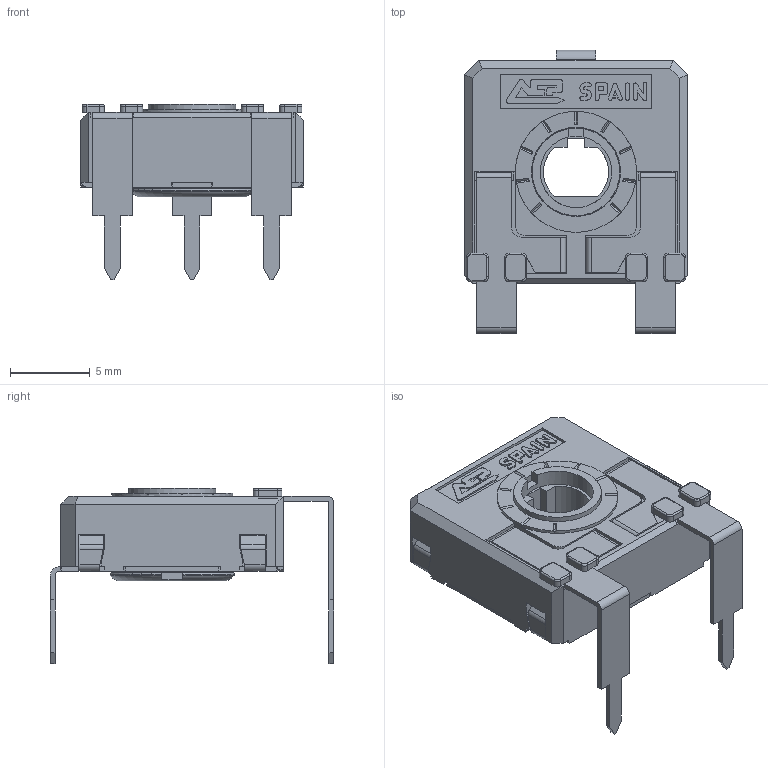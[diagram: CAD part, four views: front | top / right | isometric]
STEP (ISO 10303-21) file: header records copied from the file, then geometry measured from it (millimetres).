
FILE_DESCRIPTION(/* description */ (''),/* implementation_level */ '2;1');
FILE_NAME(/* name */ '\\SERVERACP\intercambio\Ignacio Santa Cecilia\Nueva WEB 2025\CA14 - CE14\CA14TV17,5.stp',/* time_stamp */ '2025-06-13T11:25:27+02:00',/* author */ ('CEM'),/* organization */ (''),/* preprocessor_version */ 'ST-DEVELOPER v17',/* originating_system */ 'Autodesk Inventor 2018',/* authorisation */ '');
FILE_SCHEMA (('AUTOMOTIVE_DESIGN { 1 0 10303 214 3 1 1 }'));
Length unit declared in the file: millimetre
Products named in the file (1): CARCASA CA14 PGA
Bounding box: 14 x 17.8 x 11 mm (x, y, z)
Volume: 537.2 mm3; surface area: 1520.1 mm2
Topology: 1 solids, 1 shells, 674 faces, 1906 edges, 1228 vertices
Faces by surface type: plane 500, cylinder 137, torus 23, bspline 8, cone 6
Full cylindrical faces by diameter (mm): 4.5 x1, 5.5 x1, 5.6 x1, 5.752 x1, 6.8 x1, 7.6 x1
Entity records: 22033 total; most frequent: CARTESIAN_POINT 4106, ORIENTED_EDGE 3812, DIRECTION 3555, EDGE_CURVE 1906, LINE 1501, VECTOR 1501, VERTEX_POINT 1228, AXIS2_PLACEMENT_3D 1027
